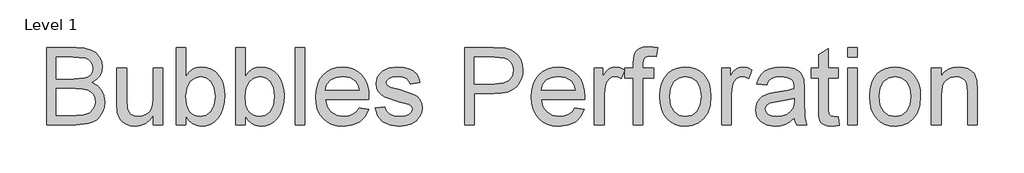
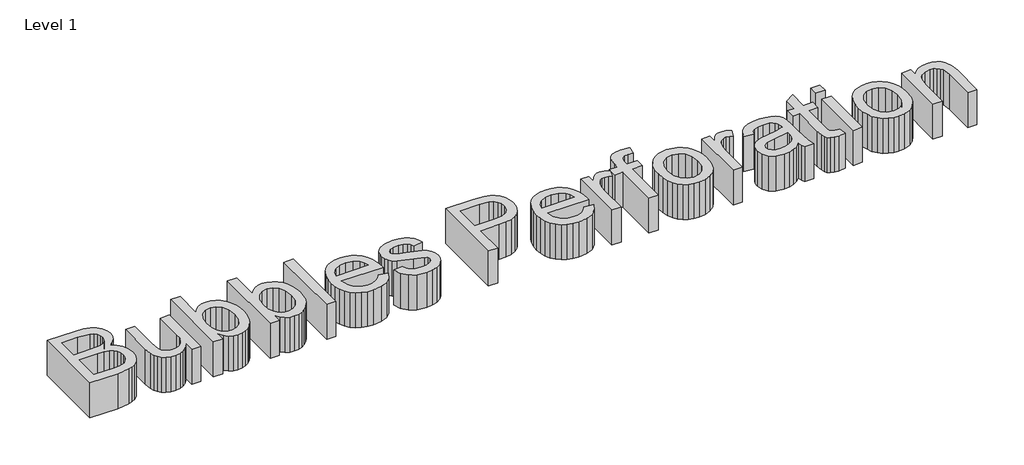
# One storey, part 3 of 3: 1 proxy.
"""IFC4 building model written with IfcOpenShell, lengths in millimetres."""

from ifc_helpers import new_model, si_unit, origin, origin_with_axes, place, context, project, spatial, polyline, outline, extrude, element, save

model = new_model("IFC4")

# Units and contexts
model_context = context("Model", 3, world=origin())
ifc_project = project(units=[si_unit("LENGTHUNIT", "METRE", prefix="MILLI")], contexts=[model_context])

# Site, building, storey
site = spatial("IfcSite", under=ifc_project)
building = spatial("IfcBuilding", under=site)
storey = spatial("IfcBuildingStorey", under=building, Name="Level 1", Elevation=0.0)

# Proxy
placement = place(None, origin())
element("IfcBuildingElementProxy", 1, Name="24\" Arial", ObjectType="24\" Arial", at=placement, inside=storey, context=model_context, shape_type="SweptSolid", body=[
    extrude(outline(polyline([(-33029.71589, 8028.3230718), (-33029.71589, 8332.8901658), (-32913.4955853, 8332.8901658), (-32881.5312837, 8330.6501552), (-32856.5751482, 8323.9301232), (-32837.4467583, 8312.5627661), (-32822.9656935, 8296.3807803), (-32813.8476418, 8277.3453369), (-32810.8082912, 8257.4176071), (-32813.36432, 8239.0792625), (-32821.0324063, 8221.8376866), (-32833.868318, 8206.7524695), (-32851.9278232, 8194.8832013), (-32830.3549403, 8183.6180854), (-32814.4146154, 8166.4787507), (-32804.571581, 8144.5991444), (-32801.2905695, 8119.1132138), (-32803.5305802, 8097.8749384), (-32810.2506122, 8078.1795748), (-32820.2795396, 8061.4306154), (-32832.4462366, 8049.0315522), (-32847.3455607, 8040.0529202), (-32865.5723695, 8033.5652544), (-32914.3878718, 8028.3230718), (-33029.71589, 8028.3230718)]), holes=[polyline([(-32991.6450033, 8066.3939585), (-32913.5699425, 8066.3939585), (-32885.3142063, 8067.8811026), (-32861.4083663, 8076.1719304), (-32845.5702825, 8093.0881936), (-32840.9136628, 8105.0411136), (-32839.3614562, 8118.7414278), (-32841.1832077, 8134.6538688), (-32846.6484619, 8148.3355937), (-32856.1940676, 8159.033736), (-32870.2568731, 8165.9954289), (-32890.1753083, 8169.8155301), (-32917.2878026, 8171.0888971), (-32991.6450033, 8171.0888971), (-32991.6450033, 8066.3939585)]), polyline([(-32991.6450033, 8209.1597839), (-32922.1210206, 8209.1597839), (-32881.521989, 8212.4315007), (-32867.3104691, 8218.0733533), (-32857.0956486, 8226.5221902), (-32850.9332956, 8237.6478864), (-32848.8791779, 8251.3203167), (-32850.7938759, 8264.593077), (-32856.5379696, 8276.1556217), (-32865.851209, 8285.1807269), (-32878.4733438, 8290.8411689), (-32927.4003819, 8294.8192791), (-32991.6450033, 8294.8192791), (-32991.6450033, 8209.1597839)])]), origin_with_axes(), (0.0, 0.0, 1.0), 152.4),
    extrude(outline(polyline([(-32610.9361357, 8028.3230718), (-32610.9361357, 8066.7657445), (-32624.7108071, 8047.8650736), (-32640.7533732, 8034.3645943), (-32659.0638339, 8026.2643068), (-32679.6421891, 8023.5642109), (-32698.1850161, 8025.4603196), (-32715.4451813, 8031.1486454), (-32729.9262461, 8039.6997235), (-32740.1317719, 8050.1840888), (-32747.0005183, 8062.9177594), (-32751.471245, 8078.2167534), (-32753.701961, 8113.610781), (-32753.701961, 8251.9895315), (-32715.6310743, 8251.9895315), (-32715.6310743, 8131.5308664), (-32713.3260011, 8092.7164076), (-32707.777095, 8079.76896), (-32698.2686679, 8069.9259256), (-32685.4327561, 8063.7078047), (-32669.9013959, 8061.6350977), (-32653.4777491, 8063.7542779), (-32638.1136926, 8070.1118186), (-32625.4450845, 8080.1221567), (-32617.1077834, 8093.1997294), (-32612.4790476, 8111.1105201), (-32610.9361357, 8135.6205124), (-32610.9361357, 8251.9895315), (-32572.8652489, 8251.9895315), (-32572.8652489, 8028.3230718), (-32610.9361357, 8028.3230718)])), origin_with_axes(), (0.0, 0.0, 1.0), 152.4),
    extrude(outline(polyline([(-32482.4468929, 8028.3230718), (-32520.5177796, 8028.3230718), (-32520.5177796, 8332.8901658), (-32482.4468929, 8332.8901658), (-32482.4468929, 8219.941578), (-32469.9269992, 8236.0445593), (-32455.7898364, 8247.5466887), (-32440.0354045, 8254.4479664), (-32422.6637035, 8256.7483923), (-32403.0519918, 8254.6756854), (-32384.5184596, 8248.4575645), (-32368.1226968, 8238.4844049), (-32354.9242937, 8225.146582), (-32344.5793481, 8208.5742209), (-32336.7439581, 8188.8974467), (-32331.8084989, 8166.9341885), (-32330.1633459, 8143.5023757), (-32331.8665905, 8116.4642386), (-32336.9763244, 8092.679229), (-32345.4925475, 8072.1473469), (-32357.4152599, 8054.8685924), (-32371.7266974, 8041.1729255), (-32387.4090957, 8031.3903063), (-32404.462455, 8025.5207348), (-32422.8867751, 8023.5642109), (-32440.8300971, 8026.0877084), (-32456.7378907, 8033.6582009), (-32470.610156, 8046.2756884), (-32482.4468929, 8063.9401709), (-32482.4468929, 8028.3230718)]), holes=[polyline([(-32482.4468929, 8141.7178028), (-32479.8443909, 8109.9672781), (-32472.0368848, 8088.4780471), (-32462.8119446, 8076.7342568), (-32452.0905657, 8068.3458351), (-32439.8727482, 8063.312782), (-32426.158492, 8061.6350977), (-32404.1859392, 8066.5798515), (-32385.410746, 8081.4141131), (-32372.528361, 8106.0449358), (-32368.2342326, 8140.3793732), (-32372.3517626, 8175.2157218), (-32384.7043526, 8199.567705), (-32402.8939828, 8213.9000554), (-32424.5226335, 8218.6775056), (-32446.4951863, 8213.7327517), (-32465.2703795, 8198.8984902), (-32478.1527645, 8174.7138107), (-32482.4468929, 8141.7178028)])]), origin_with_axes(), (0.0, 0.0, 1.0), 152.4),
    extrude(outline(polyline([(-32249.2627115, 8028.3230718), (-32287.3335983, 8028.3230718), (-32287.3335983, 8332.8901658), (-32249.2627115, 8332.8901658), (-32249.2627115, 8219.941578), (-32236.7428178, 8236.0445593), (-32222.605655, 8247.5466887), (-32206.8512231, 8254.4479664), (-32189.4795221, 8256.7483923), (-32169.8678104, 8254.6756854), (-32151.3342782, 8248.4575645), (-32134.9385154, 8238.4844049), (-32121.7401123, 8225.146582), (-32111.3951667, 8208.5742209), (-32103.5597767, 8188.8974467), (-32098.6243175, 8166.9341885), (-32096.9791645, 8143.5023757), (-32098.6824091, 8116.4642386), (-32103.792143, 8092.679229), (-32112.3083661, 8072.1473469), (-32124.2310785, 8054.8685924), (-32138.542516, 8041.1729255), (-32154.2249143, 8031.3903063), (-32171.2782736, 8025.5207348), (-32189.7025937, 8023.5642109), (-32207.6459157, 8026.0877084), (-32223.5537093, 8033.6582009), (-32237.4259746, 8046.2756884), (-32249.2627115, 8063.9401709), (-32249.2627115, 8028.3230718)]), holes=[polyline([(-32249.2627115, 8141.7178028), (-32246.6602095, 8109.9672781), (-32238.8527034, 8088.4780471), (-32229.6277632, 8076.7342568), (-32218.9063843, 8068.3458351), (-32206.6885668, 8063.312782), (-32192.9743106, 8061.6350977), (-32171.0017578, 8066.5798515), (-32152.2265646, 8081.4141131), (-32139.3441796, 8106.0449358), (-32135.0500512, 8140.3793732), (-32139.1675812, 8175.2157218), (-32151.5201712, 8199.567705), (-32169.7098014, 8213.9000554), (-32191.3384521, 8218.6775056), (-32213.311005, 8213.7327517), (-32232.0861981, 8198.8984902), (-32244.9685832, 8174.7138107), (-32249.2627115, 8141.7178028)])]), origin_with_axes(), (0.0, 0.0, 1.0), 152.4),
    extrude(outline(polyline([(-32054.1494169, 8028.3230718), (-32054.1494169, 8332.8901658), (-32016.0785301, 8332.8901658), (-32016.0785301, 8028.3230718), (-32054.1494169, 8028.3230718)])), origin_with_axes(), (0.0, 0.0, 1.0), 152.4),
    extrude(outline(polyline([(-31802.3759353, 8094.9471236), (-31765.0486205, 8090.1882628), (-31778.4979792, 8062.0626516), (-31799.9593263, 8041.0381531), (-31828.9493399, 8027.9326965), (-31864.9846983, 8023.5642109), (-31888.6070515, 8025.4487012), (-31909.6547866, 8031.1021722), (-31928.1279036, 8040.5246237), (-31944.0264026, 8053.7160558), (-31956.8111938, 8070.3093299), (-31965.9431875, 8089.9373072), (-31971.4223837, 8112.5999878), (-31973.2487825, 8138.2973716), (-31971.4037944, 8164.8661289), (-31965.8688303, 8188.2839998), (-31956.6438901, 8208.5509843), (-31943.7289738, 8225.6670824), (-31927.8723008, 8239.2651555), (-31909.8220903, 8248.9780649), (-31889.5783424, 8254.8058105), (-31867.1410571, 8256.7483923), (-31845.4264308, 8254.8104578), (-31825.7891589, 8248.9966542), (-31808.2292412, 8239.3069814), (-31792.7466778, 8225.7414396), (-31780.1082773, 8208.6625201), (-31771.0808484, 8188.4327142), (-31765.6643911, 8165.0520219), (-31763.8589053, 8138.5204432), (-31764.0819769, 8128.2591495), (-31935.1778957, 8128.2591495), (-31928.5879888, 8099.7617524), (-31913.2797001, 8078.8116111), (-31891.1863169, 8065.929226), (-31864.2411263, 8061.6350977), (-31843.9787891, 8063.6241528), (-31826.9138115, 8069.5913182), (-31813.0461936, 8079.9083798), (-31802.3759353, 8094.9471236)]), holes=[polyline([(-31935.1778957, 8166.3300363), (-31801.9297921, 8166.3300363), (-31807.0790282, 8186.4436591), (-31817.1730182, 8200.8317774), (-31839.3686426, 8214.2160735), (-31867.2897715, 8218.6775056), (-31892.9523004, 8215.1176546), (-31914.1719865, 8204.4381016), (-31928.9225962, 8187.7913833), (-31935.1778957, 8166.3300363)])]), origin_with_axes(), (0.0, 0.0, 1.0), 152.4),
    extrude(outline(polyline([(-31740.0646011, 8094.9471236), (-31701.9937143, 8099.7059845), (-31695.9893704, 8083.4217575), (-31684.3710578, 8071.4502482), (-31667.0644193, 8064.0888853), (-31643.9950978, 8061.6350977), (-31621.2046158, 8063.884403), (-31605.180639, 8070.632319), (-31595.7000959, 8080.4102909), (-31592.5399149, 8091.749764), (-31595.7186852, 8101.4533787), (-31605.2549962, 8108.8519201), (-31644.441241, 8119.7080714), (-31701.7706427, 8138.3345502), (-31716.2795915, 8147.6942629), (-31726.7918408, 8160.0840314), (-31733.1772654, 8174.7138107), (-31735.3057403, 8190.7935553), (-31733.5955246, 8205.544165), (-31728.4648778, 8219.1608274), (-31720.3785322, 8231.1044527), (-31709.8012204, 8240.8359514), (-31685.5979516, 8252.1010673), (-31652.8436047, 8256.7483923), (-31628.0640675, 8254.8801677), (-31606.5190686, 8249.2754937), (-31589.1938409, 8240.4827547), (-31577.0736172, 8229.0503351), (-31569.0430395, 8214.1324217), (-31563.9867498, 8194.8832013), (-31602.0576366, 8190.1243405), (-31606.8629707, 8202.1051445), (-31616.3713977, 8211.1302497), (-31630.6758642, 8216.7906916), (-31649.8693166, 8218.6775056), (-31671.7303337, 8216.8743435), (-31686.304345, 8211.4648571), (-31694.5022264, 8203.657351), (-31697.2348535, 8194.6601297), (-31692.6990642, 8183.5809068), (-31678.4968389, 8175.1785432), (-31645.7053134, 8167.0736083), (-31589.8258771, 8149.1535229), (-31575.0659727, 8140.5838555), (-31563.875214, 8128.8540071), (-31556.8205746, 8113.9267991), (-31554.4690281, 8095.7650528), (-31557.2295392, 8076.9898596), (-31565.5110725, 8059.3300245), (-31578.9976097, 8044.1704502), (-31597.373133, 8032.8960396), (-31619.5687574, 8025.8971681), (-31644.5155982, 8023.5642109), (-31682.9025031, 8028.0628216), (-31710.9165784, 8041.5586535), (-31729.6174144, 8063.9029923), (-31740.0646011, 8094.9471236)])), origin_with_axes(), (0.0, 0.0, 1.0), 152.4),
    extrude(outline(polyline([(-31387.9088986, 8028.3230718), (-31387.9088986, 8332.8901658), (-31275.0346679, 8332.8901658), (-31229.5280611, 8329.990235), (-31209.2378399, 8324.571454), (-31192.5353537, 8315.7508311), (-31179.0859951, 8303.1286963), (-31168.5551565, 8286.3053796), (-31161.7514726, 8266.4613017), (-31159.483578, 8244.776883), (-31161.0148716, 8226.0806944), (-31165.6087524, 8208.8809444), (-31173.2652204, 8193.1776331), (-31183.9842757, 8178.9707604), (-31198.7000304, 8167.1944387), (-31218.346597, 8158.7827804), (-31242.9239755, 8153.7357854), (-31272.4321659, 8152.0534537), (-31349.8380118, 8152.0534537), (-31349.8380118, 8028.3230718), (-31387.9088986, 8028.3230718)]), holes=[polyline([(-31349.8380118, 8190.1243405), (-31270.2014499, 8190.1243405), (-31236.4432808, 8193.6191289), (-31214.1361205, 8204.1034942), (-31201.6998787, 8220.9268109), (-31197.5544648, 8243.4384534), (-31199.9989578, 8260.5406096), (-31207.3324367, 8274.9659065), (-31218.6440258, 8285.8220578), (-31233.0228495, 8292.2167771), (-31271.0937363, 8294.8192791), (-31349.8380118, 8294.8192791), (-31349.8380118, 8190.1243405)])]), origin_with_axes(), (0.0, 0.0, 1.0), 152.4),
    extrude(outline(polyline([(-30955.2987049, 8094.9471236), (-30917.9713902, 8090.1882628), (-30931.4207488, 8062.0626516), (-30952.8820959, 8041.0381531), (-30981.8721095, 8027.9326965), (-31017.9074679, 8023.5642109), (-31041.5298211, 8025.4487012), (-31062.5775562, 8031.1021722), (-31081.0506733, 8040.5246237), (-31096.9491722, 8053.7160558), (-31109.7339634, 8070.3093299), (-31118.8659571, 8089.9373072), (-31124.3451534, 8112.5999878), (-31126.1715521, 8138.2973716), (-31124.3265641, 8164.8661289), (-31118.7915999, 8188.2839998), (-31109.5666597, 8208.5509843), (-31096.6517434, 8225.6670824), (-31080.7950704, 8239.2651555), (-31062.7448599, 8248.9780649), (-31042.501112, 8254.8058105), (-31020.0638267, 8256.7483923), (-30998.3492004, 8254.8104578), (-30978.7119285, 8248.9966542), (-30961.1520108, 8239.3069814), (-30945.6694474, 8225.7414396), (-30933.031047, 8208.6625201), (-30924.0036181, 8188.4327142), (-30918.5871607, 8165.0520219), (-30916.7816749, 8138.5204432), (-30917.0047465, 8128.2591495), (-31088.1006654, 8128.2591495), (-31081.5107584, 8099.7617524), (-31066.2024697, 8078.8116111), (-31044.1090865, 8065.929226), (-31017.1638959, 8061.6350977), (-30996.9015587, 8063.6241528), (-30979.8365811, 8069.5913182), (-30965.9689632, 8079.9083798), (-30955.2987049, 8094.9471236)]), holes=[polyline([(-31088.1006654, 8166.3300363), (-30954.8525617, 8166.3300363), (-30960.0017978, 8186.4436591), (-30970.0957878, 8200.8317774), (-30992.2914123, 8214.2160735), (-31020.2125411, 8218.6775056), (-31045.87507, 8215.1176546), (-31067.0947562, 8204.4381016), (-31081.8453658, 8187.7913833), (-31088.1006654, 8166.3300363)])]), origin_with_axes(), (0.0, 0.0, 1.0), 152.4),
    extrude(outline(polyline([(-30878.7107882, 8028.3230718), (-30878.7107882, 8251.9895315), (-30845.3987623, 8251.9895315), (-30845.3987623, 8218.9005772), (-30833.0926456, 8238.084735), (-30821.7531724, 8249.3870295), (-30810.3765207, 8254.9080516), (-30797.9588682, 8256.7483923), (-30778.997782, 8253.8112829), (-30759.7392671, 8244.9999546), (-30772.4543484, 8210.8699995), (-30785.8386445, 8216.7256291), (-30799.2229406, 8218.6775056), (-30810.5902977, 8216.7999863), (-30820.7493502, 8211.1674283), (-30828.9565263, 8202.2073856), (-30834.4682538, 8190.3474121), (-30839.0969895, 8169.0812527), (-30840.6399014, 8145.8818061), (-30840.6399014, 8028.3230718), (-30878.7107882, 8028.3230718)])), origin_with_axes(), (0.0, 0.0, 1.0), 152.4),
    extrude(outline(polyline([(-30726.4272411, 8028.3230718), (-30726.4272411, 8213.9186447), (-30759.7392671, 8213.9186447), (-30759.7392671, 8251.9895315), (-30726.4272411, 8251.9895315), (-30726.4272411, 8274.5197633), (-30722.4119523, 8306.270288), (-30714.7531606, 8318.9296014), (-30702.9303657, 8328.9492342), (-30686.3858886, 8335.4740786), (-30664.5620502, 8337.6490267), (-30629.8372374, 8333.4850235), (-30635.4140275, 8297.7935671), (-30657.3494017, 8299.5781399), (-30671.8211719, 8297.9980494), (-30681.3295989, 8293.2577779), (-30686.5996655, 8284.2047887), (-30688.3563544, 8269.6865453), (-30688.3563544, 8251.9895315), (-30645.5266068, 8251.9895315), (-30645.5266068, 8213.9186447), (-30688.3563544, 8213.9186447), (-30688.3563544, 8028.3230718), (-30726.4272411, 8028.3230718)])), origin_with_axes(), (0.0, 0.0, 1.0), 152.4),
    extrude(outline(polyline([(-30621.7323026, 8140.1563016), (-30619.6735376, 8169.1230786), (-30613.4972426, 8194.0838614), (-30603.2034176, 8215.0386501), (-30588.7920627, 8231.9874445), (-30574.2831139, 8242.8203592), (-30558.2684318, 8250.5581554), (-30540.7480164, 8255.2008331), (-30521.7218676, 8256.7483923), (-30500.7182821, 8254.863902), (-30481.7269883, 8249.2104311), (-30464.7479862, 8239.7879796), (-30449.7812759, 8226.5965474), (-30437.5657821, 8210.0822779), (-30428.8404293, 8190.6913142), (-30423.6052176, 8168.4236562), (-30421.8601471, 8143.2793041), (-30424.9459709, 8104.818042), (-30434.2034424, 8075.5398942), (-30449.3630167, 8053.6138147), (-30470.1551489, 8037.2087573), (-30494.8510342, 8026.9753475), (-30521.7218676, 8023.5642109), (-30543.0321766, 8025.4417303), (-30562.2000688, 8031.0742882), (-30579.2255441, 8040.4618848), (-30594.1086025, 8053.60452), (-30606.1939713, 8070.2791223), (-30614.8263775, 8090.26262), (-30620.0058213, 8113.5550131), (-30621.7323026, 8140.1563016)]), holes=[polyline([(-30583.6614158, 8140.2306588), (-30579.2557517, 8105.775391), (-30566.0387592, 8081.2282201), (-30546.1482081, 8066.5333783), (-30521.7218676, 8061.6350977), (-30497.407063, 8066.5612622), (-30477.5536904, 8081.3397559), (-30464.336698, 8106.2122395), (-30459.9310338, 8141.420374), (-30464.3645819, 8174.8718197), (-30477.6652262, 8199.0843832), (-30497.5464827, 8213.779225), (-30521.7218676, 8218.6775056), (-30546.1482081, 8213.7978143), (-30566.0387592, 8199.1587404), (-30579.2557517, 8174.6673374), (-30583.6614158, 8140.2306588)])]), origin_with_axes(), (0.0, 0.0, 1.0), 152.4),
    extrude(outline(polyline([(-30379.0303995, 8028.3230718), (-30379.0303995, 8251.9895315), (-30345.7183736, 8251.9895315), (-30345.7183736, 8218.9005772), (-30333.4122568, 8238.084735), (-30322.0727837, 8249.3870295), (-30310.696132, 8254.9080516), (-30298.2784795, 8256.7483923), (-30279.3173933, 8253.8112829), (-30260.0588784, 8244.9999546), (-30272.7739597, 8210.8699995), (-30286.1582558, 8216.7256291), (-30299.5425519, 8218.6775056), (-30310.909909, 8216.7999863), (-30321.0689615, 8211.1674283), (-30329.2761376, 8202.2073856), (-30334.7878651, 8190.3474121), (-30339.4166008, 8169.0812527), (-30340.9595127, 8145.8818061), (-30340.9595127, 8028.3230718), (-30379.0303995, 8028.3230718)])), origin_with_axes(), (0.0, 0.0, 1.0), 152.4),
    extrude(outline(polyline([(-30093.4987488, 8056.8762368), (-30111.688379, 8041.279814), (-30130.4170989, 8031.0742882), (-30150.1124625, 8025.4417303), (-30171.2020235, 8023.5642109), (-30203.0176108, 8028.0814109), (-30226.4866022, 8041.6330107), (-30240.9583724, 8062.211366), (-30245.7822958, 8087.8088323), (-30243.9605444, 8103.5911482), (-30238.4952902, 8117.9234986), (-30230.0650425, 8130.1924367), (-30219.348311, 8139.7845156), (-30192.6912545, 8152.2765253), (-30159.7510146, 8158.0020298), (-30120.82502, 8164.0249631), (-30093.7218204, 8171.0888971), (-30093.4987488, 8179.565618), (-30096.1198401, 8196.5562384), (-30103.9831141, 8207.6726399), (-30121.5685921, 8215.9262891), (-30146.0692897, 8218.6775056), (-30168.7482359, 8216.8464595), (-30184.5863196, 8211.3533213), (-30195.386703, 8201.1942688), (-30202.9525482, 8185.3654797), (-30241.023435, 8190.1243405), (-30234.4149388, 8210.9443567), (-30224.553315, 8227.3029409), (-30210.5183934, 8239.8135399), (-30191.3900035, 8249.0896007), (-30167.9953692, 8254.8336944), (-30141.1617144, 8256.7483923), (-30115.4248283, 8255.056766), (-30095.0230714, 8249.9818871), (-30079.6404255, 8242.3509793), (-30068.9608726, 8232.9912667), (-30061.8783492, 8221.4194273), (-30057.286792, 8207.1521395), (-30055.427862, 8173.8401135), (-30055.427862, 8126.4745767), (-30053.4945748, 8060.3338467), (-30045.9101403, 8028.3230718), (-30083.9810271, 8028.3230718), (-30090.0783176, 8041.5586535), (-30093.4987488, 8056.8762368)]), holes=[polyline([(-30093.4987488, 8133.0180104), (-30154.9177966, 8121.3439299), (-30187.6721435, 8115.1722822), (-30202.506405, 8105.1340601), (-30207.7114091, 8090.4856916), (-30204.8765408, 8079.1648078), (-30196.371936, 8069.888747), (-30182.3834876, 8063.69851), (-30163.0970886, 8061.6350977), (-30142.6488585, 8063.912287), (-30124.5800587, 8070.7438548), (-30109.9316901, 8080.8099608), (-30099.7447536, 8092.7907648), (-30095.2275537, 8105.1340601), (-30093.7218204, 8122.2362163), (-30093.4987488, 8133.0180104)])]), origin_with_axes(), (0.0, 0.0, 1.0), 152.4),
    extrude(outline(polyline([(-29922.1797584, 8060.0735965), (-29917.4208975, 8027.2077138), (-29945.8997054, 8023.5642109), (-29964.1729875, 8025.1443014), (-29977.7989445, 8029.884573), (-29987.428202, 8037.190168), (-29993.7113854, 8046.4662287), (-29997.1689953, 8062.397259), (-29998.3215319, 8089.6677624), (-29998.3215319, 8213.9186447), (-30026.874697, 8213.9186447), (-30026.874697, 8251.9895315), (-29998.3215319, 8251.9895315), (-29998.3215319, 8306.3446452), (-29960.2506451, 8328.7261626), (-29960.2506451, 8251.9895315), (-29922.1797584, 8251.9895315), (-29922.1797584, 8213.9186447), (-29960.2506451, 8213.9186447), (-29960.2506451, 8090.7831204), (-29958.2430007, 8071.1528194), (-29951.7367457, 8064.2004211), (-29938.7614141, 8061.6350977), (-29922.1797584, 8060.0735965)])), origin_with_axes(), (0.0, 0.0, 1.0), 152.4),
    extrude(outline(polyline([(-29884.1088716, 8294.8192791), (-29884.1088716, 8332.8901658), (-29846.0379849, 8332.8901658), (-29846.0379849, 8294.8192791), (-29884.1088716, 8294.8192791)])), origin_with_axes(), (0.0, 0.0, 1.0), 152.4),
    extrude(outline(polyline([(-29884.1088716, 8028.3230718), (-29884.1088716, 8251.9895315), (-29846.0379849, 8251.9895315), (-29846.0379849, 8028.3230718), (-29884.1088716, 8028.3230718)])), origin_with_axes(), (0.0, 0.0, 1.0), 152.4),
    extrude(outline(polyline([(-29798.4493764, 8140.1563016), (-29796.3906114, 8169.1230786), (-29790.2143164, 8194.0838614), (-29779.9204915, 8215.0386501), (-29765.5091365, 8231.9874445), (-29751.0001877, 8242.8203592), (-29734.9855056, 8250.5581554), (-29717.4650902, 8255.2008331), (-29698.4389415, 8256.7483923), (-29677.4353559, 8254.863902), (-29658.4440621, 8249.2104311), (-29641.4650601, 8239.7879796), (-29626.4983498, 8226.5965474), (-29614.2828559, 8210.0822779), (-29605.5575031, 8190.6913142), (-29600.3222915, 8168.4236562), (-29598.5772209, 8143.2793041), (-29601.6630448, 8104.818042), (-29610.9205162, 8075.5398942), (-29626.0800905, 8053.6138147), (-29646.8722228, 8037.2087573), (-29671.5681081, 8026.9753475), (-29698.4389415, 8023.5642109), (-29719.7492505, 8025.4417303), (-29738.9171426, 8031.0742882), (-29755.9426179, 8040.4618848), (-29770.8256764, 8053.60452), (-29782.9110451, 8070.2791223), (-29791.5434514, 8090.26262), (-29796.7228952, 8113.5550131), (-29798.4493764, 8140.1563016)]), holes=[polyline([(-29760.3784897, 8140.2306588), (-29755.9728255, 8105.775391), (-29742.7558331, 8081.2282201), (-29722.8652819, 8066.5333783), (-29698.4389415, 8061.6350977), (-29674.1241368, 8066.5612622), (-29654.2707643, 8081.3397559), (-29641.0537718, 8106.2122395), (-29636.6481077, 8141.420374), (-29641.0816558, 8174.8718197), (-29654.3823001, 8199.0843832), (-29674.2635566, 8213.779225), (-29698.4389415, 8218.6775056), (-29722.8652819, 8213.7978143), (-29742.7558331, 8199.1587404), (-29755.9728255, 8174.6673374), (-29760.3784897, 8140.2306588)])]), origin_with_axes(), (0.0, 0.0, 1.0), 152.4),
    extrude(outline(polyline([(-29555.7474733, 8028.3230718), (-29555.7474733, 8251.9895315), (-29517.6765866, 8251.9895315), (-29517.6765866, 8220.7595072), (-29504.4502995, 8236.5046444), (-29488.5657425, 8247.751171), (-29470.0229156, 8254.499087), (-29448.8218187, 8256.7483923), (-29430.0559202, 8254.9359356), (-29412.8701122, 8249.4985653), (-29398.5377617, 8241.1147909), (-29388.3322359, 8230.4631219), (-29376.9184056, 8202.4676358), (-29374.9107612, 8165.6608215), (-29374.9107612, 8028.3230718), (-29412.981648, 8028.3230718), (-29412.981648, 8160.5301746), (-29417.3687228, 8194.2139865), (-29423.4381293, 8204.242914), (-29432.8721992, 8212.0225361), (-29444.9645389, 8217.0137632), (-29459.0087552, 8218.6775056), (-29481.3066208, 8214.9410562), (-29500.3141802, 8203.7317082), (-29507.910233, 8194.5811252), (-29513.335985, 8182.0751735), (-29517.6765866, 8146.9971641), (-29517.6765866, 8028.3230718), (-29555.7474733, 8028.3230718)])), origin_with_axes(), (0.0, 0.0, 1.0), 152.4),
])

save(model, "model.ifc")
